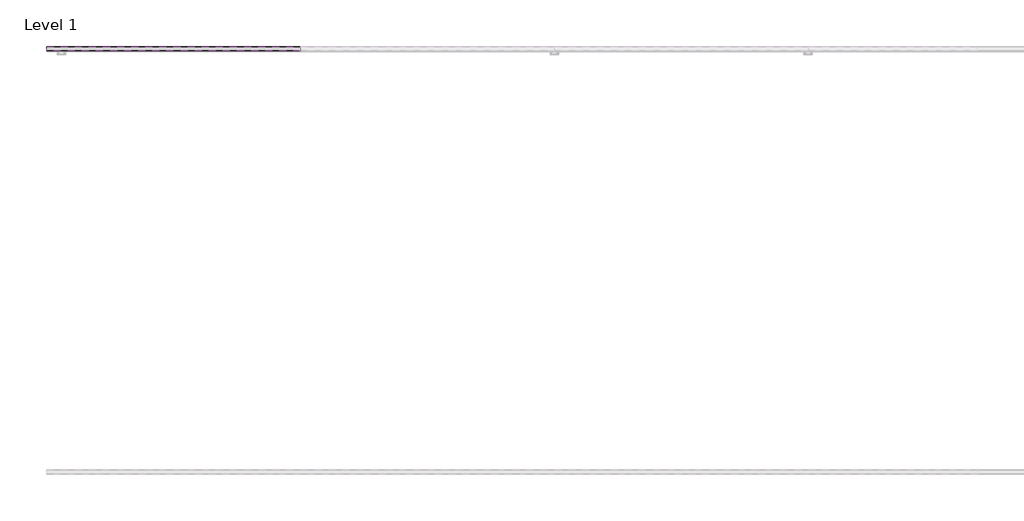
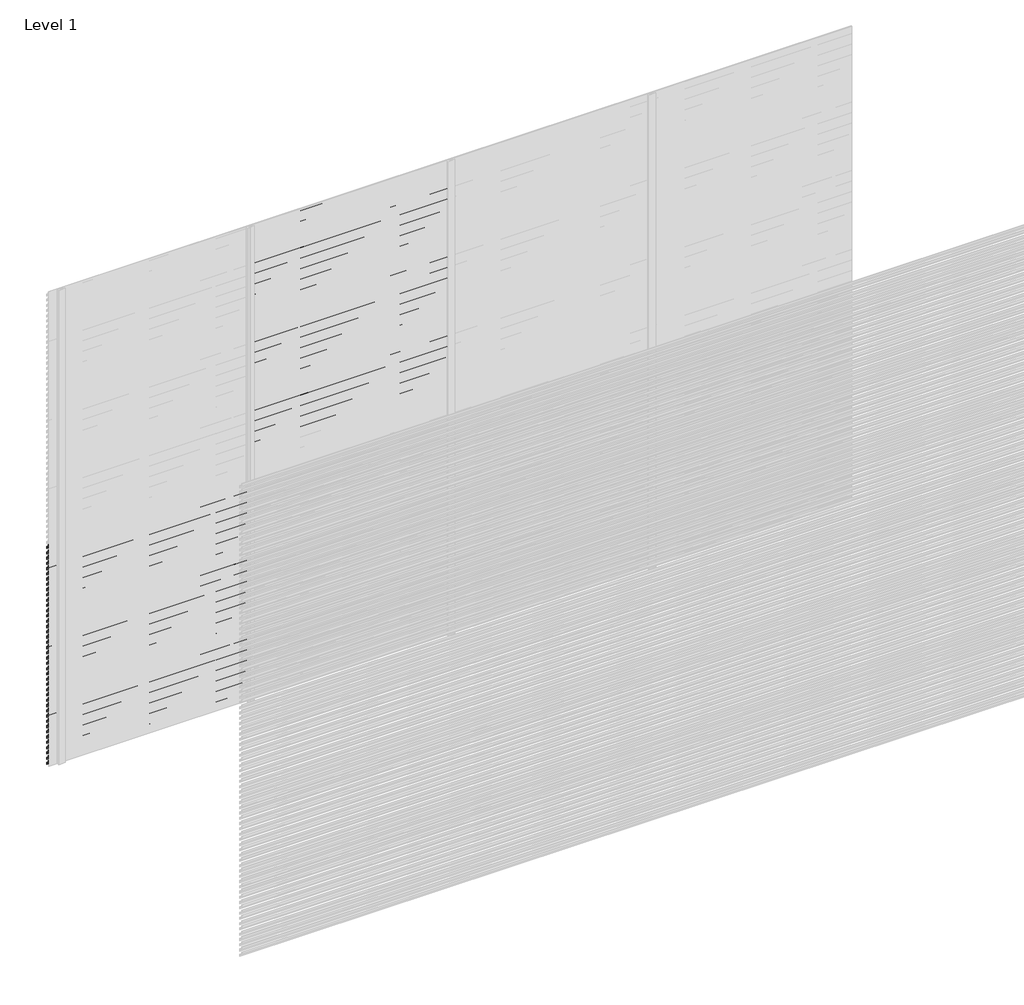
# One storey, part 55 of 507: 84 proxies.
"""IFC4 building model written with IfcOpenShell, lengths in millimetres."""

import ifcopenshell
import ifcopenshell.guid

model = None  # the IFC model being written
_history = None  # IfcOwnerHistory: only IFC2X3 demands one
_inside = {}  # id of a spatial element -> (the spatial element, [elements in it])
_under = {}  # id of a project, library or spatial element -> (it, [spatial elements below it])
_declared = {}  # id of a project -> (the project, [libraries it declares])
_typed = {}  # id of a type object -> (the type object, [elements of that type])
_made_of = {}  # id of a material, layer set ... -> (it, [elements and type objects made of it])


def new_model(schema):
    """Start an empty IFC model of exactly this schema.

    Asked for "IFC4X3", IfcOpenShell would pick the latest addendum, in which some entities
    have other attributes; the version numbers below select the first issue.
    IFC2X3 requires an IfcOwnerHistory on every rooted entity: one is made here for all.
    """
    global model, _history
    if schema == "IFC4X3":
        model = ifcopenshell.file(schema_version=(4, 3, 0, 0))
    else:
        model = ifcopenshell.file(schema=schema)
    _inside.clear()
    _under.clear()
    _declared.clear()
    _typed.clear()
    _made_of.clear()
    _history = None
    if model.schema == "IFC2X3":
        org = make("IfcOrganization", Name="unknown")
        user = make(
            "IfcPersonAndOrganization",
            ThePerson=make("IfcPerson", FamilyName="unknown"),
            TheOrganization=org,
        )
        app = make(
            "IfcApplication",
            ApplicationDeveloper=org,
            Version="unknown",
            ApplicationFullName="unknown",
            ApplicationIdentifier="unknown",
        )
        _history = make(
            "IfcOwnerHistory",
            OwningUser=user,
            OwningApplication=app,
            ChangeAction="ADDED",
            CreationDate=0,
        )
    return model


def make(cls, **values):
    """One entity of the class cls with the attributes given. An attribute that is None is left unset."""
    return model.create_entity(
        cls, **{name: value for name, value in values.items() if value is not None}
    )


def rooted(cls, **values):
    """An entity with a GlobalId (a new one), such as an element, a storey or a relation."""
    return make(cls, GlobalId=ifcopenshell.guid.new(), OwnerHistory=_history, **values)


def si_unit(unit_type, name, prefix=None):
    """IfcSIUnit, for example si_unit("LENGTHUNIT", "METRE", prefix="MILLI")."""
    return make("IfcSIUnit", UnitType=unit_type, Prefix=prefix, Name=name)


def assignment(units):
    """IfcUnitAssignment: the units of a project."""
    return None if units is None else make("IfcUnitAssignment", Units=units)


def point(xyz):
    """IfcCartesianPoint."""
    return None if xyz is None else make("IfcCartesianPoint", Coordinates=xyz)


def direction(xyz):
    """IfcDirection."""
    return None if xyz is None else make("IfcDirection", DirectionRatios=xyz)


def frame(location, z_axis=None, x_axis=None):
    """IfcAxis2Placement3D, a coordinate frame: its origin and axes. An axis left out is left unset."""
    return make(
        "IfcAxis2Placement3D",
        Location=point(location),
        Axis=direction(z_axis),
        RefDirection=direction(x_axis),
    )


def origin():
    """The frame at (0, 0, 0) with its axes left unset."""
    return frame((0.0, 0.0, 0.0))


def place(relative_to, where):
    """IfcLocalPlacement: puts the frame where relative to a parent placement (None: the world)."""
    return make(
        "IfcLocalPlacement", PlacementRelTo=relative_to, RelativePlacement=where
    )


def context(
    kind, dimensions, precision=None, world=None, true_north=None, identifier=None
):
    """IfcGeometricRepresentationContext, for example the 3D "Model" context."""
    return make(
        "IfcGeometricRepresentationContext",
        ContextIdentifier=identifier,
        ContextType=kind,
        CoordinateSpaceDimension=dimensions,
        Precision=precision,
        WorldCoordinateSystem=world,
        TrueNorth=true_north,
    )


def project(units=None, contexts=None):
    """IfcProject with its units and contexts."""
    return rooted(
        "IfcProject",
        Name="project",
        RepresentationContexts=contexts,
        UnitsInContext=assignment(units),
    )


def spatial(cls, under=None, at=None, **own):
    """A site, building, storey or space (cls), placed at a placement, below another one or the project."""
    s = rooted(cls, ObjectPlacement=at, **own)
    if under is not None:
        _under.setdefault(under.id(), (under, []))[1].append(s)
    return s


def polyline(points):
    """IfcPolyline through the points."""
    return make("IfcPolyline", Points=[point(p) for p in points])


def outline(outer, holes=None, kind="AREA"):
    """IfcArbitraryClosedProfileDef: a profile drawn as a closed curve; with holes, ...WithVoids."""
    if holes is None:
        return make("IfcArbitraryClosedProfileDef", ProfileType=kind, OuterCurve=outer)
    return make(
        "IfcArbitraryProfileDefWithVoids",
        ProfileType=kind,
        OuterCurve=outer,
        InnerCurves=holes,
    )


def extrude(swept, where, along, depth):
    """IfcExtrudedAreaSolid: the profile swept, set in the frame where, extruded along a direction by depth."""
    return make(
        "IfcExtrudedAreaSolid",
        SweptArea=swept,
        Position=where,
        ExtrudedDirection=direction(along),
        Depth=depth,
    )


def shape(context_of_items, identifier, shape_type, items):
    """IfcShapeRepresentation: the items that make up one representation, for example the "Body"."""
    return make(
        "IfcShapeRepresentation",
        ContextOfItems=context_of_items,
        RepresentationIdentifier=identifier,
        RepresentationType=shape_type,
        Items=items,
    )


def made_of(thing, what):
    """Note that an element or type object is made of a material, layer set ...; save() writes the relation."""
    if what is not None:
        _made_of.setdefault(what.id(), (what, []))[1].append(thing)
    return thing


def element(
    cls,
    number,
    at=None,
    inside=None,
    cuts=None,
    type_object=None,
    material=None,
    context=None,
    identifier="Body",
    shape_type=None,
    held_by="IfcProductDefinitionShape",
    body=None,
    shapes=None,
    **own,
):
    """One element of the class cls, such as IfcWall. Its Tag is "e" and its number.

    at: its placement. inside: the storey or other place that contains it. cuts: it is an
    opening in that element (IfcRelVoidsElement). A single representation is given by context,
    identifier, shape_type and body (its items); several are given by shapes. held_by: the class
    of the entity that holds the representations. save() writes the other relations.
    """
    e = rooted(cls, Tag="e%d" % number, ObjectPlacement=at, **own)
    if body is not None:
        shapes = [shape(context, identifier, shape_type, body)]
    if shapes is not None:
        e.Representation = make(held_by, Representations=shapes)
    if inside is not None:
        _inside.setdefault(inside.id(), (inside, []))[1].append(e)
    if cuts is not None:
        rooted(
            "IfcRelVoidsElement", RelatingBuildingElement=cuts, RelatedOpeningElement=e
        )
    if type_object is not None:
        _typed.setdefault(type_object.id(), (type_object, []))[1].append(e)
    return made_of(e, material)


def aggregate(whole, parts):
    """IfcRelAggregates: a whole, such as a stair, and the parts it consists of."""
    return rooted("IfcRelAggregates", RelatingObject=whole, RelatedObjects=parts)


def save(model, path):
    """Write the relations noted so far, then the file.

    IfcRelAggregates (storeys below a building ...), IfcRelContainedInSpatialStructure (elements
    in a storey), IfcRelDefinesByType, IfcRelAssociatesMaterial and IfcRelDeclares: one each for
    every whole, place, type object, material and project.
    """
    for whole, parts in _under.values():
        aggregate(whole, parts)
    for where, things in _inside.values():
        rooted(
            "IfcRelContainedInSpatialStructure",
            RelatedElements=things,
            RelatingStructure=where,
        )
    for kind, things in _typed.values():
        rooted("IfcRelDefinesByType", RelatedObjects=things, RelatingType=kind)
    for what, things in _made_of.values():
        rooted("IfcRelAssociatesMaterial", RelatedObjects=things, RelatingMaterial=what)
    for by, libraries in _declared.values():
        rooted("IfcRelDeclares", RelatingContext=by, RelatedDefinitions=libraries)
    model.write(path)


model = new_model("IFC4")

# Units and contexts
model_context = context("Model", 3, world=origin())
ifc_project = project(units=[si_unit("LENGTHUNIT", "METRE", prefix="MILLI")], contexts=[model_context])

# Site, building, storey
site = spatial("IfcSite", under=ifc_project)
building = spatial("IfcBuilding", under=site)
storey = spatial("IfcBuildingStorey", under=building, Name="Level 1", Elevation=0.0)

# Proxies
placement = place(None, origin())
element("IfcBuildingElementProxy", 1, Name="Wall Sweeps", at=placement, inside=storey, context=model_context, shape_type="SweptSolid", body=[
    extrude(outline(polyline([(44003.4540136, 1374.6), (44003.4540136, 1361.1), (44002.2040136, 1361.8216933), (44002.2040136, 1373.8782281), (43983.0540136, 1384.9345698), (43983.0540136, 1398.6), (43984.3040136, 1398.6), (43984.3040136, 1385.6562577), (44003.4540136, 1374.6)])), frame((44966.6208097, 0.0, 0.0), z_axis=(1.0, 0.0, 0.0), x_axis=(0.0, 1.0, 0.0)), (0.0, 0.0, 1.0), 1200.0000002),
])
element("IfcBuildingElementProxy", 2, Name="Wall Sweeps", at=placement, inside=storey, context=model_context, shape_type="SweptSolid", body=[
    extrude(outline(polyline([(44003.4540136, 1341.3), (44003.4540136, 1327.8), (44002.2040136, 1328.5216933), (44002.2040136, 1340.5782281), (43983.0540136, 1351.6345698), (43983.0540136, 1365.3), (43984.3040136, 1365.3), (43984.3040136, 1352.3562577), (44003.4540136, 1341.3)])), frame((44966.6208097, 0.0, 0.0), z_axis=(1.0, 0.0, 0.0), x_axis=(0.0, 1.0, 0.0)), (0.0, 0.0, 1.0), 1200.0000002),
])
element("IfcBuildingElementProxy", 3, Name="Wall Sweeps", at=placement, inside=storey, context=model_context, shape_type="SweptSolid", body=[
    extrude(outline(polyline([(44003.4540136, 1308.0), (44003.4540136, 1294.5), (44002.2040136, 1295.2216933), (44002.2040136, 1307.2782281), (43983.0540136, 1318.3345698), (43983.0540136, 1332.0), (43984.3040136, 1332.0), (43984.3040136, 1319.0562577), (44003.4540136, 1308.0)])), frame((44966.6208097, 0.0, 0.0), z_axis=(1.0, 0.0, 0.0), x_axis=(0.0, 1.0, 0.0)), (0.0, 0.0, 1.0), 1200.0000002),
])
element("IfcBuildingElementProxy", 4, Name="Wall Sweeps", at=placement, inside=storey, context=model_context, shape_type="SweptSolid", body=[
    extrude(outline(polyline([(44003.4540136, 1274.7), (44003.4540136, 1261.2), (44002.2040136, 1261.9216933), (44002.2040136, 1273.9782281), (43983.0540136, 1285.0345698), (43983.0540136, 1298.7), (43984.3040136, 1298.7), (43984.3040136, 1285.7562577), (44003.4540136, 1274.7)])), frame((44966.6208097, 0.0, 0.0), z_axis=(1.0, 0.0, 0.0), x_axis=(0.0, 1.0, 0.0)), (0.0, 0.0, 1.0), 1200.0000002),
])
element("IfcBuildingElementProxy", 5, Name="Wall Sweeps", at=placement, inside=storey, context=model_context, shape_type="SweptSolid", body=[
    extrude(outline(polyline([(44003.4540136, 1241.4), (44003.4540136, 1227.9), (44002.2040136, 1228.6216933), (44002.2040136, 1240.6782281), (43983.0540136, 1251.7345698), (43983.0540136, 1265.4), (43984.3040136, 1265.4), (43984.3040136, 1252.4562577), (44003.4540136, 1241.4)])), frame((44966.6208097, 0.0, 0.0), z_axis=(1.0, 0.0, 0.0), x_axis=(0.0, 1.0, 0.0)), (0.0, 0.0, 1.0), 1200.0000002),
])
element("IfcBuildingElementProxy", 6, Name="Wall Sweeps", at=placement, inside=storey, context=model_context, shape_type="SweptSolid", body=[
    extrude(outline(polyline([(44003.4540136, 1208.1), (44003.4540136, 1194.6), (44002.2040136, 1195.3216933), (44002.2040136, 1207.3782281), (43983.0540136, 1218.4345698), (43983.0540136, 1232.1), (43984.3040136, 1232.1), (43984.3040136, 1219.1562577), (44003.4540136, 1208.1)])), frame((44966.6208097, 0.0, 0.0), z_axis=(1.0, 0.0, 0.0), x_axis=(0.0, 1.0, 0.0)), (0.0, 0.0, 1.0), 1200.0000002),
])
element("IfcBuildingElementProxy", 7, Name="Wall Sweeps", at=placement, inside=storey, context=model_context, shape_type="SweptSolid", body=[
    extrude(outline(polyline([(44003.4540136, 1174.8), (44003.4540136, 1161.3), (44002.2040136, 1162.0216933), (44002.2040136, 1174.0782281), (43983.0540136, 1185.1345698), (43983.0540136, 1198.8), (43984.3040136, 1198.8), (43984.3040136, 1185.8562577), (44003.4540136, 1174.8)])), frame((44966.6208097, 0.0, 0.0), z_axis=(1.0, 0.0, 0.0), x_axis=(0.0, 1.0, 0.0)), (0.0, 0.0, 1.0), 1200.0000002),
])
element("IfcBuildingElementProxy", 8, Name="Wall Sweeps", at=placement, inside=storey, context=model_context, shape_type="SweptSolid", body=[
    extrude(outline(polyline([(44003.4540136, 1141.5), (44003.4540136, 1128.0), (44002.2040136, 1128.7216933), (44002.2040136, 1140.7782281), (43983.0540136, 1151.8345698), (43983.0540136, 1165.5), (43984.3040136, 1165.5), (43984.3040136, 1152.5562577), (44003.4540136, 1141.5)])), frame((44966.6208097, 0.0, 0.0), z_axis=(1.0, 0.0, 0.0), x_axis=(0.0, 1.0, 0.0)), (0.0, 0.0, 1.0), 1200.0000002),
])
element("IfcBuildingElementProxy", 9, Name="Wall Sweeps", at=placement, inside=storey, context=model_context, shape_type="SweptSolid", body=[
    extrude(outline(polyline([(44003.4540136, 1108.2), (44003.4540136, 1094.7), (44002.2040136, 1095.4216933), (44002.2040136, 1107.4782281), (43983.0540136, 1118.5345698), (43983.0540136, 1132.2), (43984.3040136, 1132.2), (43984.3040136, 1119.2562577), (44003.4540136, 1108.2)])), frame((44966.6208097, 0.0, 0.0), z_axis=(1.0, 0.0, 0.0), x_axis=(0.0, 1.0, 0.0)), (0.0, 0.0, 1.0), 1200.0000002),
])
element("IfcBuildingElementProxy", 10, Name="Wall Sweeps", at=placement, inside=storey, context=model_context, shape_type="SweptSolid", body=[
    extrude(outline(polyline([(44003.4540136, 1074.9), (44003.4540136, 1061.4), (44002.2040136, 1062.1216933), (44002.2040136, 1074.1782281), (43983.0540136, 1085.2345698), (43983.0540136, 1098.9), (43984.3040136, 1098.9), (43984.3040136, 1085.9562577), (44003.4540136, 1074.9)])), frame((44966.6208097, 0.0, 0.0), z_axis=(1.0, 0.0, 0.0), x_axis=(0.0, 1.0, 0.0)), (0.0, 0.0, 1.0), 1200.0000002),
])
element("IfcBuildingElementProxy", 11, Name="Wall Sweeps", at=placement, inside=storey, context=model_context, shape_type="SweptSolid", body=[
    extrude(outline(polyline([(44003.4540136, 1041.6), (44003.4540136, 1028.1), (44002.2040136, 1028.8216933), (44002.2040136, 1040.8782281), (43983.0540136, 1051.9345698), (43983.0540136, 1065.6), (43984.3040136, 1065.6), (43984.3040136, 1052.6562577), (44003.4540136, 1041.6)])), frame((44966.6208097, 0.0, 0.0), z_axis=(1.0, 0.0, 0.0), x_axis=(0.0, 1.0, 0.0)), (0.0, 0.0, 1.0), 1200.0000002),
])
element("IfcBuildingElementProxy", 12, Name="Wall Sweeps", at=placement, inside=storey, context=model_context, shape_type="SweptSolid", body=[
    extrude(outline(polyline([(44003.4540136, 1008.3), (44003.4540136, 994.8), (44002.2040136, 995.5216933), (44002.2040136, 1007.5782281), (43983.0540136, 1018.6345698), (43983.0540136, 1032.3), (43984.3040136, 1032.3), (43984.3040136, 1019.3562577), (44003.4540136, 1008.3)])), frame((44966.6208097, 0.0, 0.0), z_axis=(1.0, 0.0, 0.0), x_axis=(0.0, 1.0, 0.0)), (0.0, 0.0, 1.0), 1200.0000002),
])
element("IfcBuildingElementProxy", 13, Name="Wall Sweeps", at=placement, inside=storey, context=model_context, shape_type="SweptSolid", body=[
    extrude(outline(polyline([(44003.4540136, 975.0), (44003.4540136, 961.5), (44002.2040136, 962.2216933), (44002.2040136, 974.2782281), (43983.0540136, 985.3345698), (43983.0540136, 999.0), (43984.3040136, 999.0), (43984.3040136, 986.0562577), (44003.4540136, 975.0)])), frame((44966.6208097, 0.0, 0.0), z_axis=(1.0, 0.0, 0.0), x_axis=(0.0, 1.0, 0.0)), (0.0, 0.0, 1.0), 1200.0000002),
])
element("IfcBuildingElementProxy", 14, Name="Wall Sweeps", at=placement, inside=storey, context=model_context, shape_type="SweptSolid", body=[
    extrude(outline(polyline([(44003.4540136, 941.7), (44003.4540136, 928.2), (44002.2040136, 928.9216933), (44002.2040136, 940.9782281), (43983.0540136, 952.0345698), (43983.0540136, 965.7), (43984.3040136, 965.7), (43984.3040136, 952.7562577), (44003.4540136, 941.7)])), frame((44966.6208097, 0.0, 0.0), z_axis=(1.0, 0.0, 0.0), x_axis=(0.0, 1.0, 0.0)), (0.0, 0.0, 1.0), 1200.0000002),
])
element("IfcBuildingElementProxy", 15, Name="Wall Sweeps", at=placement, inside=storey, context=model_context, shape_type="SweptSolid", body=[
    extrude(outline(polyline([(44003.4540136, 908.4), (44003.4540136, 894.9), (44002.2040136, 895.6216933), (44002.2040136, 907.6782281), (43983.0540136, 918.7345698), (43983.0540136, 932.4), (43984.3040136, 932.4), (43984.3040136, 919.4562577), (44003.4540136, 908.4)])), frame((44966.6208097, 0.0, 0.0), z_axis=(1.0, 0.0, 0.0), x_axis=(0.0, 1.0, 0.0)), (0.0, 0.0, 1.0), 1200.0000002),
])
element("IfcBuildingElementProxy", 16, Name="Wall Sweeps", at=placement, inside=storey, context=model_context, shape_type="SweptSolid", body=[
    extrude(outline(polyline([(44003.4540136, 875.1), (44003.4540136, 861.6), (44002.2040136, 862.3216933), (44002.2040136, 874.3782281), (43983.0540136, 885.4345698), (43983.0540136, 899.1), (43984.3040136, 899.1), (43984.3040136, 886.1562577), (44003.4540136, 875.1)])), frame((44966.6208097, 0.0, 0.0), z_axis=(1.0, 0.0, 0.0), x_axis=(0.0, 1.0, 0.0)), (0.0, 0.0, 1.0), 1200.0000002),
])
element("IfcBuildingElementProxy", 17, Name="Wall Sweeps", at=placement, inside=storey, context=model_context, shape_type="SweptSolid", body=[
    extrude(outline(polyline([(44003.4540136, 841.8), (44003.4540136, 828.3), (44002.2040136, 829.0216933), (44002.2040136, 841.0782281), (43983.0540136, 852.1345698), (43983.0540136, 865.8), (43984.3040136, 865.8), (43984.3040136, 852.8562577), (44003.4540136, 841.8)])), frame((44966.6208097, 0.0, 0.0), z_axis=(1.0, 0.0, 0.0), x_axis=(0.0, 1.0, 0.0)), (0.0, 0.0, 1.0), 1200.0000002),
])
element("IfcBuildingElementProxy", 18, Name="Wall Sweeps", at=placement, inside=storey, context=model_context, shape_type="SweptSolid", body=[
    extrude(outline(polyline([(44003.4540136, 808.5), (44003.4540136, 795.0), (44002.2040136, 795.7216933), (44002.2040136, 807.7782281), (43983.0540136, 818.8345698), (43983.0540136, 832.5), (43984.3040136, 832.5), (43984.3040136, 819.5562577), (44003.4540136, 808.5)])), frame((44966.6208097, 0.0, 0.0), z_axis=(1.0, 0.0, 0.0), x_axis=(0.0, 1.0, 0.0)), (0.0, 0.0, 1.0), 1200.0000002),
])
element("IfcBuildingElementProxy", 19, Name="Wall Sweeps", at=placement, inside=storey, context=model_context, shape_type="SweptSolid", body=[
    extrude(outline(polyline([(44003.4540136, 775.2), (44003.4540136, 761.7), (44002.2040136, 762.4216933), (44002.2040136, 774.4782281), (43983.0540136, 785.5345698), (43983.0540136, 799.2), (43984.3040136, 799.2), (43984.3040136, 786.2562577), (44003.4540136, 775.2)])), frame((44966.6208097, 0.0, 0.0), z_axis=(1.0, 0.0, 0.0), x_axis=(0.0, 1.0, 0.0)), (0.0, 0.0, 1.0), 1200.0000002),
])
element("IfcBuildingElementProxy", 20, Name="Wall Sweeps", at=placement, inside=storey, context=model_context, shape_type="SweptSolid", body=[
    extrude(outline(polyline([(44003.4540136, 741.9), (44003.4540136, 728.4), (44002.2040136, 729.1216933), (44002.2040136, 741.1782281), (43983.0540136, 752.2345698), (43983.0540136, 765.9), (43984.3040136, 765.9), (43984.3040136, 752.9562577), (44003.4540136, 741.9)])), frame((44966.6208097, 0.0, 0.0), z_axis=(1.0, 0.0, 0.0), x_axis=(0.0, 1.0, 0.0)), (0.0, 0.0, 1.0), 1200.0000002),
])
element("IfcBuildingElementProxy", 21, Name="Wall Sweeps", at=placement, inside=storey, context=model_context, shape_type="SweptSolid", body=[
    extrude(outline(polyline([(44003.4540136, 708.6), (44003.4540136, 695.1), (44002.2040136, 695.8216933), (44002.2040136, 707.8782281), (43983.0540136, 718.9345698), (43983.0540136, 732.6), (43984.3040136, 732.6), (43984.3040136, 719.6562577), (44003.4540136, 708.6)])), frame((44966.6208097, 0.0, 0.0), z_axis=(1.0, 0.0, 0.0), x_axis=(0.0, 1.0, 0.0)), (0.0, 0.0, 1.0), 1200.0000002),
])
element("IfcBuildingElementProxy", 22, Name="Wall Sweeps", at=placement, inside=storey, context=model_context, shape_type="SweptSolid", body=[
    extrude(outline(polyline([(44003.4540136, 675.3), (44003.4540136, 661.8), (44002.2040136, 662.5216933), (44002.2040136, 674.5782281), (43983.0540136, 685.6345698), (43983.0540136, 699.3), (43984.3040136, 699.3), (43984.3040136, 686.3562577), (44003.4540136, 675.3)])), frame((44966.6208097, 0.0, 0.0), z_axis=(1.0, 0.0, 0.0), x_axis=(0.0, 1.0, 0.0)), (0.0, 0.0, 1.0), 1200.0000002),
])
element("IfcBuildingElementProxy", 23, Name="Wall Sweeps", at=placement, inside=storey, context=model_context, shape_type="SweptSolid", body=[
    extrude(outline(polyline([(44003.4540136, 642.0), (44003.4540136, 628.5), (44002.2040136, 629.2216933), (44002.2040136, 641.2782281), (43983.0540136, 652.3345698), (43983.0540136, 666.0), (43984.3040136, 666.0), (43984.3040136, 653.0562577), (44003.4540136, 642.0)])), frame((44966.6208097, 0.0, 0.0), z_axis=(1.0, 0.0, 0.0), x_axis=(0.0, 1.0, 0.0)), (0.0, 0.0, 1.0), 1200.0000002),
])
element("IfcBuildingElementProxy", 24, Name="Wall Sweeps", at=placement, inside=storey, context=model_context, shape_type="SweptSolid", body=[
    extrude(outline(polyline([(44003.4540136, 608.7), (44003.4540136, 595.2), (44002.2040136, 595.9216933), (44002.2040136, 607.9782281), (43983.0540136, 619.0345698), (43983.0540136, 632.7), (43984.3040136, 632.7), (43984.3040136, 619.7562577), (44003.4540136, 608.7)])), frame((44966.6208097, 0.0, 0.0), z_axis=(1.0, 0.0, 0.0), x_axis=(0.0, 1.0, 0.0)), (0.0, 0.0, 1.0), 1200.0000002),
])
element("IfcBuildingElementProxy", 25, Name="Wall Sweeps", at=placement, inside=storey, context=model_context, shape_type="SweptSolid", body=[
    extrude(outline(polyline([(44003.4540136, 575.4), (44003.4540136, 561.9), (44002.2040136, 562.6216933), (44002.2040136, 574.6782281), (43983.0540136, 585.7345698), (43983.0540136, 599.4), (43984.3040136, 599.4), (43984.3040136, 586.4562577), (44003.4540136, 575.4)])), frame((44966.6208097, 0.0, 0.0), z_axis=(1.0, 0.0, 0.0), x_axis=(0.0, 1.0, 0.0)), (0.0, 0.0, 1.0), 1200.0000002),
])
element("IfcBuildingElementProxy", 26, Name="Wall Sweeps", at=placement, inside=storey, context=model_context, shape_type="SweptSolid", body=[
    extrude(outline(polyline([(44003.4540136, 542.1), (44003.4540136, 528.6), (44002.2040136, 529.3216933), (44002.2040136, 541.3782281), (43983.0540136, 552.4345698), (43983.0540136, 566.1), (43984.3040136, 566.1), (43984.3040136, 553.1562577), (44003.4540136, 542.1)])), frame((44966.6208097, 0.0, 0.0), z_axis=(1.0, 0.0, 0.0), x_axis=(0.0, 1.0, 0.0)), (0.0, 0.0, 1.0), 1200.0000002),
])
element("IfcBuildingElementProxy", 27, Name="Wall Sweeps", at=placement, inside=storey, context=model_context, shape_type="SweptSolid", body=[
    extrude(outline(polyline([(44003.4540136, 508.8), (44003.4540136, 495.3), (44002.2040136, 496.0216933), (44002.2040136, 508.0782281), (43983.0540136, 519.1345698), (43983.0540136, 532.8), (43984.3040136, 532.8), (43984.3040136, 519.8562577), (44003.4540136, 508.8)])), frame((44966.6208097, 0.0, 0.0), z_axis=(1.0, 0.0, 0.0), x_axis=(0.0, 1.0, 0.0)), (0.0, 0.0, 1.0), 1200.0000002),
])
element("IfcBuildingElementProxy", 28, Name="Wall Sweeps", at=placement, inside=storey, context=model_context, shape_type="SweptSolid", body=[
    extrude(outline(polyline([(44003.4540136, 475.5), (44003.4540136, 462.0), (44002.2040136, 462.7216933), (44002.2040136, 474.7782281), (43983.0540136, 485.8345698), (43983.0540136, 499.5), (43984.3040136, 499.5), (43984.3040136, 486.5562577), (44003.4540136, 475.5)])), frame((44966.6208097, 0.0, 0.0), z_axis=(1.0, 0.0, 0.0), x_axis=(0.0, 1.0, 0.0)), (0.0, 0.0, 1.0), 1200.0000002),
])
element("IfcBuildingElementProxy", 29, Name="Wall Sweeps", at=placement, inside=storey, context=model_context, shape_type="SweptSolid", body=[
    extrude(outline(polyline([(44003.4540136, 442.2), (44003.4540136, 428.7), (44002.2040136, 429.4216933), (44002.2040136, 441.4782281), (43983.0540136, 452.5345698), (43983.0540136, 466.2), (43984.3040136, 466.2), (43984.3040136, 453.2562577), (44003.4540136, 442.2)])), frame((44966.6208097, 0.0, 0.0), z_axis=(1.0, 0.0, 0.0), x_axis=(0.0, 1.0, 0.0)), (0.0, 0.0, 1.0), 1200.0000002),
])
element("IfcBuildingElementProxy", 30, Name="Wall Sweeps", at=placement, inside=storey, context=model_context, shape_type="SweptSolid", body=[
    extrude(outline(polyline([(44003.4540136, 408.9), (44003.4540136, 395.4), (44002.2040136, 396.1216933), (44002.2040136, 408.1782281), (43983.0540136, 419.2345698), (43983.0540136, 432.9), (43984.3040136, 432.9), (43984.3040136, 419.9562577), (44003.4540136, 408.9)])), frame((44966.6208097, 0.0, 0.0), z_axis=(1.0, 0.0, 0.0), x_axis=(0.0, 1.0, 0.0)), (0.0, 0.0, 1.0), 1200.0000002),
])
element("IfcBuildingElementProxy", 31, Name="Wall Sweeps", at=placement, inside=storey, context=model_context, shape_type="SweptSolid", body=[
    extrude(outline(polyline([(44003.4540136, 375.6), (44003.4540136, 362.1), (44002.2040136, 362.8216933), (44002.2040136, 374.8782281), (43983.0540136, 385.9345698), (43983.0540136, 399.6), (43984.3040136, 399.6), (43984.3040136, 386.6562577), (44003.4540136, 375.6)])), frame((44966.6208097, 0.0, 0.0), z_axis=(1.0, 0.0, 0.0), x_axis=(0.0, 1.0, 0.0)), (0.0, 0.0, 1.0), 1200.0000002),
])
element("IfcBuildingElementProxy", 32, Name="Wall Sweeps", at=placement, inside=storey, context=model_context, shape_type="SweptSolid", body=[
    extrude(outline(polyline([(44003.4540136, 342.3), (44003.4540136, 328.8), (44002.2040136, 329.5216933), (44002.2040136, 341.5782281), (43983.0540136, 352.6345698), (43983.0540136, 366.3), (43984.3040136, 366.3), (43984.3040136, 353.3562577), (44003.4540136, 342.3)])), frame((44966.6208097, 0.0, 0.0), z_axis=(1.0, 0.0, 0.0), x_axis=(0.0, 1.0, 0.0)), (0.0, 0.0, 1.0), 1200.0000002),
])
element("IfcBuildingElementProxy", 33, Name="Wall Sweeps", at=placement, inside=storey, context=model_context, shape_type="SweptSolid", body=[
    extrude(outline(polyline([(44003.4540136, 309.0), (44003.4540136, 295.5), (44002.2040136, 296.2216933), (44002.2040136, 308.2782281), (43983.0540136, 319.3345698), (43983.0540136, 333.0), (43984.3040136, 333.0), (43984.3040136, 320.0562577), (44003.4540136, 309.0)])), frame((44966.6208097, 0.0, 0.0), z_axis=(1.0, 0.0, 0.0), x_axis=(0.0, 1.0, 0.0)), (0.0, 0.0, 1.0), 1200.0000002),
])
element("IfcBuildingElementProxy", 34, Name="Wall Sweeps", at=placement, inside=storey, context=model_context, shape_type="SweptSolid", body=[
    extrude(outline(polyline([(44003.4540136, 275.7), (44003.4540136, 262.2), (44002.2040136, 262.9216933), (44002.2040136, 274.9782281), (43983.0540136, 286.0345698), (43983.0540136, 299.7), (43984.3040136, 299.7), (43984.3040136, 286.7562577), (44003.4540136, 275.7)])), frame((44966.6208097, 0.0, 0.0), z_axis=(1.0, 0.0, 0.0), x_axis=(0.0, 1.0, 0.0)), (0.0, 0.0, 1.0), 1200.0000002),
])
element("IfcBuildingElementProxy", 35, Name="Wall Sweeps", at=placement, inside=storey, context=model_context, shape_type="SweptSolid", body=[
    extrude(outline(polyline([(44003.4540136, 242.4), (44003.4540136, 228.9), (44002.2040136, 229.6216933), (44002.2040136, 241.6782281), (43983.0540136, 252.7345698), (43983.0540136, 266.4), (43984.3040136, 266.4), (43984.3040136, 253.4562577), (44003.4540136, 242.4)])), frame((44966.6208097, 0.0, 0.0), z_axis=(1.0, 0.0, 0.0), x_axis=(0.0, 1.0, 0.0)), (0.0, 0.0, 1.0), 1200.0000002),
])
element("IfcBuildingElementProxy", 36, Name="Wall Sweeps", at=placement, inside=storey, context=model_context, shape_type="SweptSolid", body=[
    extrude(outline(polyline([(44003.4540136, 209.1), (44003.4540136, 195.6), (44002.2040136, 196.3216933), (44002.2040136, 208.3782281), (43983.0540136, 219.4345698), (43983.0540136, 233.1), (43984.3040136, 233.1), (43984.3040136, 220.1562577), (44003.4540136, 209.1)])), frame((44966.6208097, 0.0, 0.0), z_axis=(1.0, 0.0, 0.0), x_axis=(0.0, 1.0, 0.0)), (0.0, 0.0, 1.0), 1200.0000002),
])
element("IfcBuildingElementProxy", 37, Name="Wall Sweeps", at=placement, inside=storey, context=model_context, shape_type="SweptSolid", body=[
    extrude(outline(polyline([(44003.4540136, 175.8), (44003.4540136, 162.3), (44002.2040136, 163.0216933), (44002.2040136, 175.0782281), (43983.0540136, 186.1345698), (43983.0540136, 199.8), (43984.3040136, 199.8), (43984.3040136, 186.8562577), (44003.4540136, 175.8)])), frame((44966.6208097, 0.0, 0.0), z_axis=(1.0, 0.0, 0.0), x_axis=(0.0, 1.0, 0.0)), (0.0, 0.0, 1.0), 1200.0000002),
])
element("IfcBuildingElementProxy", 38, Name="Wall Sweeps", at=placement, inside=storey, context=model_context, shape_type="SweptSolid", body=[
    extrude(outline(polyline([(44003.4540136, 142.5), (44003.4540136, 129.0), (44002.2040136, 129.7216933), (44002.2040136, 141.7782281), (43983.0540136, 152.8345698), (43983.0540136, 166.5), (43984.3040136, 166.5), (43984.3040136, 153.5562577), (44003.4540136, 142.5)])), frame((44966.6208097, 0.0, 0.0), z_axis=(1.0, 0.0, 0.0), x_axis=(0.0, 1.0, 0.0)), (0.0, 0.0, 1.0), 1200.0000002),
])
element("IfcBuildingElementProxy", 39, Name="Wall Sweeps", at=placement, inside=storey, context=model_context, shape_type="SweptSolid", body=[
    extrude(outline(polyline([(44003.4540136, 109.2), (44003.4540136, 95.7), (44002.2040136, 96.4216933), (44002.2040136, 108.4782281), (43983.0540136, 119.5345698), (43983.0540136, 133.2), (43984.3040136, 133.2), (43984.3040136, 120.2562577), (44003.4540136, 109.2)])), frame((44966.6208097, 0.0, 0.0), z_axis=(1.0, 0.0, 0.0), x_axis=(0.0, 1.0, 0.0)), (0.0, 0.0, 1.0), 1200.0000002),
])
element("IfcBuildingElementProxy", 40, Name="Wall Sweeps", at=placement, inside=storey, context=model_context, shape_type="SweptSolid", body=[
    extrude(outline(polyline([(44003.4540136, 75.9), (44003.4540136, 62.4), (44002.2040136, 63.1216933), (44002.2040136, 75.1782281), (43983.0540136, 86.2345698), (43983.0540136, 99.9), (43984.3040136, 99.9), (43984.3040136, 86.9562577), (44003.4540136, 75.9)])), frame((44966.6208097, 0.0, 0.0), z_axis=(1.0, 0.0, 0.0), x_axis=(0.0, 1.0, 0.0)), (0.0, 0.0, 1.0), 1200.0000002),
])
element("IfcBuildingElementProxy", 41, Name="Wall Sweeps", at=placement, inside=storey, context=model_context, shape_type="SweptSolid", body=[
    extrude(outline(polyline([(44003.4540136, 42.6), (44003.4540136, 29.1), (44002.2040136, 29.8216933), (44002.2040136, 41.8782281), (43983.0540136, 52.9345698), (43983.0540136, 66.6), (43984.3040136, 66.6), (43984.3040136, 53.6562577), (44003.4540136, 42.6)])), frame((44966.6208097, 0.0, 0.0), z_axis=(1.0, 0.0, 0.0), x_axis=(0.0, 1.0, 0.0)), (0.0, 0.0, 1.0), 1200.0000002),
])
element("IfcBuildingElementProxy", 42, Name="Wall Sweeps", at=placement, inside=storey, context=model_context, shape_type="SweptSolid", body=[
    extrude(outline(polyline([(44003.4540136, 9.3), (44003.4540136, -4.2), (44002.2040136, -3.4783067), (44002.2040136, 8.5782281), (43983.0540136, 19.6345698), (43983.0540136, 33.3), (43984.3040136, 33.3), (43984.3040136, 20.3562577), (44003.4540136, 9.3)])), frame((44966.6208097, 0.0, 0.0), z_axis=(1.0, 0.0, 0.0), x_axis=(0.0, 1.0, 0.0)), (0.0, 0.0, 1.0), 1200.0000002),
])
element("IfcBuildingElementProxy", 43, Name="Wall Sweeps", at=placement, inside=storey, context=model_context, shape_type="SweptSolid", body=[
    extrude(outline(polyline([(44003.4540136, 2973.0), (44003.4540136, 2959.5), (44002.2040136, 2960.2216933), (44002.2040136, 2972.2782281), (43983.0540136, 2983.3345698), (43983.0540136, 2997.0), (43984.3040136, 2997.0), (43984.3040136, 2984.0562577), (44003.4540136, 2973.0)])), frame((46166.6208099, 0.0, 0.0), z_axis=(1.0, 0.0, 0.0), x_axis=(0.0, 1.0, 0.0)), (0.0, 0.0, 1.0), 1199.9999999),
])
element("IfcBuildingElementProxy", 44, Name="Wall Sweeps", at=placement, inside=storey, context=model_context, shape_type="SweptSolid", body=[
    extrude(outline(polyline([(44003.4540136, 2939.7), (44003.4540136, 2926.2), (44002.2040136, 2926.9216933), (44002.2040136, 2938.9782281), (43983.0540136, 2950.0345698), (43983.0540136, 2963.7), (43984.3040136, 2963.7), (43984.3040136, 2950.7562577), (44003.4540136, 2939.7)])), frame((46166.6208099, 0.0, 0.0), z_axis=(1.0, 0.0, 0.0), x_axis=(0.0, 1.0, 0.0)), (0.0, 0.0, 1.0), 1199.9999999),
])
element("IfcBuildingElementProxy", 45, Name="Wall Sweeps", at=placement, inside=storey, context=model_context, shape_type="SweptSolid", body=[
    extrude(outline(polyline([(44003.4540136, 2906.4), (44003.4540136, 2892.9), (44002.2040136, 2893.6216933), (44002.2040136, 2905.6782281), (43983.0540136, 2916.7345698), (43983.0540136, 2930.4), (43984.3040136, 2930.4), (43984.3040136, 2917.4562577), (44003.4540136, 2906.4)])), frame((46166.6208099, 0.0, 0.0), z_axis=(1.0, 0.0, 0.0), x_axis=(0.0, 1.0, 0.0)), (0.0, 0.0, 1.0), 1199.9999999),
])
element("IfcBuildingElementProxy", 46, Name="Wall Sweeps", at=placement, inside=storey, context=model_context, shape_type="SweptSolid", body=[
    extrude(outline(polyline([(44003.4540136, 2873.1), (44003.4540136, 2859.6), (44002.2040136, 2860.3216933), (44002.2040136, 2872.3782281), (43983.0540136, 2883.4345698), (43983.0540136, 2897.1), (43984.3040136, 2897.1), (43984.3040136, 2884.1562577), (44003.4540136, 2873.1)])), frame((46166.6208099, 0.0, 0.0), z_axis=(1.0, 0.0, 0.0), x_axis=(0.0, 1.0, 0.0)), (0.0, 0.0, 1.0), 1199.9999999),
])
element("IfcBuildingElementProxy", 47, Name="Wall Sweeps", at=placement, inside=storey, context=model_context, shape_type="SweptSolid", body=[
    extrude(outline(polyline([(44003.4540136, 2839.8), (44003.4540136, 2826.3), (44002.2040136, 2827.0216933), (44002.2040136, 2839.0782281), (43983.0540136, 2850.1345698), (43983.0540136, 2863.8), (43984.3040136, 2863.8), (43984.3040136, 2850.8562577), (44003.4540136, 2839.8)])), frame((46166.6208099, 0.0, 0.0), z_axis=(1.0, 0.0, 0.0), x_axis=(0.0, 1.0, 0.0)), (0.0, 0.0, 1.0), 1199.9999999),
])
element("IfcBuildingElementProxy", 48, Name="Wall Sweeps", at=placement, inside=storey, context=model_context, shape_type="SweptSolid", body=[
    extrude(outline(polyline([(44003.4540136, 2806.5), (44003.4540136, 2793.0), (44002.2040136, 2793.7216933), (44002.2040136, 2805.7782281), (43983.0540136, 2816.8345698), (43983.0540136, 2830.5), (43984.3040136, 2830.5), (43984.3040136, 2817.5562577), (44003.4540136, 2806.5)])), frame((46166.6208099, 0.0, 0.0), z_axis=(1.0, 0.0, 0.0), x_axis=(0.0, 1.0, 0.0)), (0.0, 0.0, 1.0), 1199.9999999),
])
element("IfcBuildingElementProxy", 49, Name="Wall Sweeps", at=placement, inside=storey, context=model_context, shape_type="SweptSolid", body=[
    extrude(outline(polyline([(44003.4540136, 2773.2), (44003.4540136, 2759.7), (44002.2040136, 2760.4216933), (44002.2040136, 2772.4782281), (43983.0540136, 2783.5345698), (43983.0540136, 2797.2), (43984.3040136, 2797.2), (43984.3040136, 2784.2562577), (44003.4540136, 2773.2)])), frame((46166.6208099, 0.0, 0.0), z_axis=(1.0, 0.0, 0.0), x_axis=(0.0, 1.0, 0.0)), (0.0, 0.0, 1.0), 1199.9999999),
])
element("IfcBuildingElementProxy", 50, Name="Wall Sweeps", at=placement, inside=storey, context=model_context, shape_type="SweptSolid", body=[
    extrude(outline(polyline([(44003.4540136, 2739.9), (44003.4540136, 2726.4), (44002.2040136, 2727.1216933), (44002.2040136, 2739.1782281), (43983.0540136, 2750.2345698), (43983.0540136, 2763.9), (43984.3040136, 2763.9), (43984.3040136, 2750.9562577), (44003.4540136, 2739.9)])), frame((46166.6208099, 0.0, 0.0), z_axis=(1.0, 0.0, 0.0), x_axis=(0.0, 1.0, 0.0)), (0.0, 0.0, 1.0), 1199.9999999),
])
element("IfcBuildingElementProxy", 51, Name="Wall Sweeps", at=placement, inside=storey, context=model_context, shape_type="SweptSolid", body=[
    extrude(outline(polyline([(44003.4540136, 2706.6), (44003.4540136, 2693.1), (44002.2040136, 2693.8216933), (44002.2040136, 2705.8782281), (43983.0540136, 2716.9345698), (43983.0540136, 2730.6), (43984.3040136, 2730.6), (43984.3040136, 2717.6562577), (44003.4540136, 2706.6)])), frame((46166.6208099, 0.0, 0.0), z_axis=(1.0, 0.0, 0.0), x_axis=(0.0, 1.0, 0.0)), (0.0, 0.0, 1.0), 1199.9999999),
])
element("IfcBuildingElementProxy", 52, Name="Wall Sweeps", at=placement, inside=storey, context=model_context, shape_type="SweptSolid", body=[
    extrude(outline(polyline([(44003.4540136, 2673.3), (44003.4540136, 2659.8), (44002.2040136, 2660.5216933), (44002.2040136, 2672.5782281), (43983.0540136, 2683.6345698), (43983.0540136, 2697.3), (43984.3040136, 2697.3), (43984.3040136, 2684.3562577), (44003.4540136, 2673.3)])), frame((46166.6208099, 0.0, 0.0), z_axis=(1.0, 0.0, 0.0), x_axis=(0.0, 1.0, 0.0)), (0.0, 0.0, 1.0), 1199.9999999),
])
element("IfcBuildingElementProxy", 53, Name="Wall Sweeps", at=placement, inside=storey, context=model_context, shape_type="SweptSolid", body=[
    extrude(outline(polyline([(44003.4540136, 2640.0), (44003.4540136, 2626.5), (44002.2040136, 2627.2216933), (44002.2040136, 2639.2782281), (43983.0540136, 2650.3345698), (43983.0540136, 2664.0), (43984.3040136, 2664.0), (43984.3040136, 2651.0562577), (44003.4540136, 2640.0)])), frame((46166.6208099, 0.0, 0.0), z_axis=(1.0, 0.0, 0.0), x_axis=(0.0, 1.0, 0.0)), (0.0, 0.0, 1.0), 1199.9999999),
])
element("IfcBuildingElementProxy", 54, Name="Wall Sweeps", at=placement, inside=storey, context=model_context, shape_type="SweptSolid", body=[
    extrude(outline(polyline([(44003.4540136, 2606.7), (44003.4540136, 2593.2), (44002.2040136, 2593.9216933), (44002.2040136, 2605.9782281), (43983.0540136, 2617.0345698), (43983.0540136, 2630.7), (43984.3040136, 2630.7), (43984.3040136, 2617.7562577), (44003.4540136, 2606.7)])), frame((46166.6208099, 0.0, 0.0), z_axis=(1.0, 0.0, 0.0), x_axis=(0.0, 1.0, 0.0)), (0.0, 0.0, 1.0), 1199.9999999),
])
element("IfcBuildingElementProxy", 55, Name="Wall Sweeps", at=placement, inside=storey, context=model_context, shape_type="SweptSolid", body=[
    extrude(outline(polyline([(44003.4540136, 2573.4), (44003.4540136, 2559.9), (44002.2040136, 2560.6216933), (44002.2040136, 2572.6782281), (43983.0540136, 2583.7345698), (43983.0540136, 2597.4), (43984.3040136, 2597.4), (43984.3040136, 2584.4562577), (44003.4540136, 2573.4)])), frame((46166.6208099, 0.0, 0.0), z_axis=(1.0, 0.0, 0.0), x_axis=(0.0, 1.0, 0.0)), (0.0, 0.0, 1.0), 1199.9999999),
])
element("IfcBuildingElementProxy", 56, Name="Wall Sweeps", at=placement, inside=storey, context=model_context, shape_type="SweptSolid", body=[
    extrude(outline(polyline([(44003.4540136, 2540.1), (44003.4540136, 2526.6), (44002.2040136, 2527.3216933), (44002.2040136, 2539.3782281), (43983.0540136, 2550.4345698), (43983.0540136, 2564.1), (43984.3040136, 2564.1), (43984.3040136, 2551.1562577), (44003.4540136, 2540.1)])), frame((46166.6208099, 0.0, 0.0), z_axis=(1.0, 0.0, 0.0), x_axis=(0.0, 1.0, 0.0)), (0.0, 0.0, 1.0), 1199.9999999),
])
element("IfcBuildingElementProxy", 57, Name="Wall Sweeps", at=placement, inside=storey, context=model_context, shape_type="SweptSolid", body=[
    extrude(outline(polyline([(44003.4540136, 2506.8), (44003.4540136, 2493.3), (44002.2040136, 2494.0216933), (44002.2040136, 2506.0782281), (43983.0540136, 2517.1345698), (43983.0540136, 2530.8), (43984.3040136, 2530.8), (43984.3040136, 2517.8562577), (44003.4540136, 2506.8)])), frame((46166.6208099, 0.0, 0.0), z_axis=(1.0, 0.0, 0.0), x_axis=(0.0, 1.0, 0.0)), (0.0, 0.0, 1.0), 1199.9999999),
])
element("IfcBuildingElementProxy", 58, Name="Wall Sweeps", at=placement, inside=storey, context=model_context, shape_type="SweptSolid", body=[
    extrude(outline(polyline([(44003.4540136, 2473.5), (44003.4540136, 2460.0), (44002.2040136, 2460.7216933), (44002.2040136, 2472.7782281), (43983.0540136, 2483.8345698), (43983.0540136, 2497.5), (43984.3040136, 2497.5), (43984.3040136, 2484.5562577), (44003.4540136, 2473.5)])), frame((46166.6208099, 0.0, 0.0), z_axis=(1.0, 0.0, 0.0), x_axis=(0.0, 1.0, 0.0)), (0.0, 0.0, 1.0), 1199.9999999),
])
element("IfcBuildingElementProxy", 59, Name="Wall Sweeps", at=placement, inside=storey, context=model_context, shape_type="SweptSolid", body=[
    extrude(outline(polyline([(44003.4540136, 2440.2), (44003.4540136, 2426.7), (44002.2040136, 2427.4216933), (44002.2040136, 2439.4782281), (43983.0540136, 2450.5345698), (43983.0540136, 2464.2), (43984.3040136, 2464.2), (43984.3040136, 2451.2562577), (44003.4540136, 2440.2)])), frame((46166.6208099, 0.0, 0.0), z_axis=(1.0, 0.0, 0.0), x_axis=(0.0, 1.0, 0.0)), (0.0, 0.0, 1.0), 1199.9999999),
])
element("IfcBuildingElementProxy", 60, Name="Wall Sweeps", at=placement, inside=storey, context=model_context, shape_type="SweptSolid", body=[
    extrude(outline(polyline([(44003.4540136, 2406.9), (44003.4540136, 2393.4), (44002.2040136, 2394.1216933), (44002.2040136, 2406.1782281), (43983.0540136, 2417.2345698), (43983.0540136, 2430.9), (43984.3040136, 2430.9), (43984.3040136, 2417.9562577), (44003.4540136, 2406.9)])), frame((46166.6208099, 0.0, 0.0), z_axis=(1.0, 0.0, 0.0), x_axis=(0.0, 1.0, 0.0)), (0.0, 0.0, 1.0), 1199.9999999),
])
element("IfcBuildingElementProxy", 61, Name="Wall Sweeps", at=placement, inside=storey, context=model_context, shape_type="SweptSolid", body=[
    extrude(outline(polyline([(44003.4540136, 2373.6), (44003.4540136, 2360.1), (44002.2040136, 2360.8216933), (44002.2040136, 2372.8782281), (43983.0540136, 2383.9345698), (43983.0540136, 2397.6), (43984.3040136, 2397.6), (43984.3040136, 2384.6562577), (44003.4540136, 2373.6)])), frame((46166.6208099, 0.0, 0.0), z_axis=(1.0, 0.0, 0.0), x_axis=(0.0, 1.0, 0.0)), (0.0, 0.0, 1.0), 1199.9999999),
])
element("IfcBuildingElementProxy", 62, Name="Wall Sweeps", at=placement, inside=storey, context=model_context, shape_type="SweptSolid", body=[
    extrude(outline(polyline([(44003.4540136, 2340.3), (44003.4540136, 2326.8), (44002.2040136, 2327.5216933), (44002.2040136, 2339.5782281), (43983.0540136, 2350.6345698), (43983.0540136, 2364.3), (43984.3040136, 2364.3), (43984.3040136, 2351.3562577), (44003.4540136, 2340.3)])), frame((46166.6208099, 0.0, 0.0), z_axis=(1.0, 0.0, 0.0), x_axis=(0.0, 1.0, 0.0)), (0.0, 0.0, 1.0), 1199.9999999),
])
element("IfcBuildingElementProxy", 63, Name="Wall Sweeps", at=placement, inside=storey, context=model_context, shape_type="SweptSolid", body=[
    extrude(outline(polyline([(44003.4540136, 2307.0), (44003.4540136, 2293.5), (44002.2040136, 2294.2216933), (44002.2040136, 2306.2782281), (43983.0540136, 2317.3345698), (43983.0540136, 2331.0), (43984.3040136, 2331.0), (43984.3040136, 2318.0562577), (44003.4540136, 2307.0)])), frame((46166.6208099, 0.0, 0.0), z_axis=(1.0, 0.0, 0.0), x_axis=(0.0, 1.0, 0.0)), (0.0, 0.0, 1.0), 1199.9999999),
])
element("IfcBuildingElementProxy", 64, Name="Wall Sweeps", at=placement, inside=storey, context=model_context, shape_type="SweptSolid", body=[
    extrude(outline(polyline([(44003.4540136, 2273.7), (44003.4540136, 2260.2), (44002.2040136, 2260.9216933), (44002.2040136, 2272.9782281), (43983.0540136, 2284.0345698), (43983.0540136, 2297.7), (43984.3040136, 2297.7), (43984.3040136, 2284.7562577), (44003.4540136, 2273.7)])), frame((46166.6208099, 0.0, 0.0), z_axis=(1.0, 0.0, 0.0), x_axis=(0.0, 1.0, 0.0)), (0.0, 0.0, 1.0), 1199.9999999),
])
element("IfcBuildingElementProxy", 65, Name="Wall Sweeps", at=placement, inside=storey, context=model_context, shape_type="SweptSolid", body=[
    extrude(outline(polyline([(44003.4540136, 2240.4), (44003.4540136, 2226.9), (44002.2040136, 2227.6216933), (44002.2040136, 2239.6782281), (43983.0540136, 2250.7345698), (43983.0540136, 2264.4), (43984.3040136, 2264.4), (43984.3040136, 2251.4562577), (44003.4540136, 2240.4)])), frame((46166.6208099, 0.0, 0.0), z_axis=(1.0, 0.0, 0.0), x_axis=(0.0, 1.0, 0.0)), (0.0, 0.0, 1.0), 1199.9999999),
])
element("IfcBuildingElementProxy", 66, Name="Wall Sweeps", at=placement, inside=storey, context=model_context, shape_type="SweptSolid", body=[
    extrude(outline(polyline([(44003.4540136, 2207.1), (44003.4540136, 2193.6), (44002.2040136, 2194.3216933), (44002.2040136, 2206.3782281), (43983.0540136, 2217.4345698), (43983.0540136, 2231.1), (43984.3040136, 2231.1), (43984.3040136, 2218.1562577), (44003.4540136, 2207.1)])), frame((46166.6208099, 0.0, 0.0), z_axis=(1.0, 0.0, 0.0), x_axis=(0.0, 1.0, 0.0)), (0.0, 0.0, 1.0), 1199.9999999),
])
element("IfcBuildingElementProxy", 67, Name="Wall Sweeps", at=placement, inside=storey, context=model_context, shape_type="SweptSolid", body=[
    extrude(outline(polyline([(44003.4540136, 2173.8), (44003.4540136, 2160.3), (44002.2040136, 2161.0216933), (44002.2040136, 2173.0782281), (43983.0540136, 2184.1345698), (43983.0540136, 2197.8), (43984.3040136, 2197.8), (43984.3040136, 2184.8562577), (44003.4540136, 2173.8)])), frame((46166.6208099, 0.0, 0.0), z_axis=(1.0, 0.0, 0.0), x_axis=(0.0, 1.0, 0.0)), (0.0, 0.0, 1.0), 1199.9999999),
])
element("IfcBuildingElementProxy", 68, Name="Wall Sweeps", at=placement, inside=storey, context=model_context, shape_type="SweptSolid", body=[
    extrude(outline(polyline([(44003.4540136, 2140.5), (44003.4540136, 2127.0), (44002.2040136, 2127.7216933), (44002.2040136, 2139.7782281), (43983.0540136, 2150.8345698), (43983.0540136, 2164.5), (43984.3040136, 2164.5), (43984.3040136, 2151.5562577), (44003.4540136, 2140.5)])), frame((46166.6208099, 0.0, 0.0), z_axis=(1.0, 0.0, 0.0), x_axis=(0.0, 1.0, 0.0)), (0.0, 0.0, 1.0), 1199.9999999),
])
element("IfcBuildingElementProxy", 69, Name="Wall Sweeps", at=placement, inside=storey, context=model_context, shape_type="SweptSolid", body=[
    extrude(outline(polyline([(44003.4540136, 2107.2), (44003.4540136, 2093.7), (44002.2040136, 2094.4216933), (44002.2040136, 2106.4782281), (43983.0540136, 2117.5345698), (43983.0540136, 2131.2), (43984.3040136, 2131.2), (43984.3040136, 2118.2562577), (44003.4540136, 2107.2)])), frame((46166.6208099, 0.0, 0.0), z_axis=(1.0, 0.0, 0.0), x_axis=(0.0, 1.0, 0.0)), (0.0, 0.0, 1.0), 1199.9999999),
])
element("IfcBuildingElementProxy", 70, Name="Wall Sweeps", at=placement, inside=storey, context=model_context, shape_type="SweptSolid", body=[
    extrude(outline(polyline([(44003.4540136, 2073.9), (44003.4540136, 2060.4), (44002.2040136, 2061.1216933), (44002.2040136, 2073.1782281), (43983.0540136, 2084.2345698), (43983.0540136, 2097.9), (43984.3040136, 2097.9), (43984.3040136, 2084.9562577), (44003.4540136, 2073.9)])), frame((46166.6208099, 0.0, 0.0), z_axis=(1.0, 0.0, 0.0), x_axis=(0.0, 1.0, 0.0)), (0.0, 0.0, 1.0), 1199.9999999),
])
element("IfcBuildingElementProxy", 71, Name="Wall Sweeps", at=placement, inside=storey, context=model_context, shape_type="SweptSolid", body=[
    extrude(outline(polyline([(44003.4540136, 2040.6), (44003.4540136, 2027.1), (44002.2040136, 2027.8216933), (44002.2040136, 2039.8782281), (43983.0540136, 2050.9345698), (43983.0540136, 2064.6), (43984.3040136, 2064.6), (43984.3040136, 2051.6562577), (44003.4540136, 2040.6)])), frame((46166.6208099, 0.0, 0.0), z_axis=(1.0, 0.0, 0.0), x_axis=(0.0, 1.0, 0.0)), (0.0, 0.0, 1.0), 1199.9999999),
])
element("IfcBuildingElementProxy", 72, Name="Wall Sweeps", at=placement, inside=storey, context=model_context, shape_type="SweptSolid", body=[
    extrude(outline(polyline([(44003.4540136, 2007.3), (44003.4540136, 1993.8), (44002.2040136, 1994.5216933), (44002.2040136, 2006.5782281), (43983.0540136, 2017.6345698), (43983.0540136, 2031.3), (43984.3040136, 2031.3), (43984.3040136, 2018.3562577), (44003.4540136, 2007.3)])), frame((46166.6208099, 0.0, 0.0), z_axis=(1.0, 0.0, 0.0), x_axis=(0.0, 1.0, 0.0)), (0.0, 0.0, 1.0), 1199.9999999),
])
element("IfcBuildingElementProxy", 73, Name="Wall Sweeps", at=placement, inside=storey, context=model_context, shape_type="SweptSolid", body=[
    extrude(outline(polyline([(44003.4540136, 1974.0), (44003.4540136, 1960.5), (44002.2040136, 1961.2216933), (44002.2040136, 1973.2782281), (43983.0540136, 1984.3345698), (43983.0540136, 1998.0), (43984.3040136, 1998.0), (43984.3040136, 1985.0562577), (44003.4540136, 1974.0)])), frame((46166.6208099, 0.0, 0.0), z_axis=(1.0, 0.0, 0.0), x_axis=(0.0, 1.0, 0.0)), (0.0, 0.0, 1.0), 1199.9999999),
])
element("IfcBuildingElementProxy", 74, Name="Wall Sweeps", at=placement, inside=storey, context=model_context, shape_type="SweptSolid", body=[
    extrude(outline(polyline([(44003.4540136, 1940.7), (44003.4540136, 1927.2), (44002.2040136, 1927.9216933), (44002.2040136, 1939.9782281), (43983.0540136, 1951.0345698), (43983.0540136, 1964.7), (43984.3040136, 1964.7), (43984.3040136, 1951.7562577), (44003.4540136, 1940.7)])), frame((46166.6208099, 0.0, 0.0), z_axis=(1.0, 0.0, 0.0), x_axis=(0.0, 1.0, 0.0)), (0.0, 0.0, 1.0), 1199.9999999),
])
element("IfcBuildingElementProxy", 75, Name="Wall Sweeps", at=placement, inside=storey, context=model_context, shape_type="SweptSolid", body=[
    extrude(outline(polyline([(44003.4540136, 1907.4), (44003.4540136, 1893.9), (44002.2040136, 1894.6216933), (44002.2040136, 1906.6782281), (43983.0540136, 1917.7345698), (43983.0540136, 1931.4), (43984.3040136, 1931.4), (43984.3040136, 1918.4562577), (44003.4540136, 1907.4)])), frame((46166.6208099, 0.0, 0.0), z_axis=(1.0, 0.0, 0.0), x_axis=(0.0, 1.0, 0.0)), (0.0, 0.0, 1.0), 1199.9999999),
])
element("IfcBuildingElementProxy", 76, Name="Wall Sweeps", at=placement, inside=storey, context=model_context, shape_type="SweptSolid", body=[
    extrude(outline(polyline([(44003.4540136, 1874.1), (44003.4540136, 1860.6), (44002.2040136, 1861.3216933), (44002.2040136, 1873.3782281), (43983.0540136, 1884.4345698), (43983.0540136, 1898.1), (43984.3040136, 1898.1), (43984.3040136, 1885.1562577), (44003.4540136, 1874.1)])), frame((46166.6208099, 0.0, 0.0), z_axis=(1.0, 0.0, 0.0), x_axis=(0.0, 1.0, 0.0)), (0.0, 0.0, 1.0), 1199.9999999),
])
element("IfcBuildingElementProxy", 77, Name="Wall Sweeps", at=placement, inside=storey, context=model_context, shape_type="SweptSolid", body=[
    extrude(outline(polyline([(44003.4540136, 1840.8), (44003.4540136, 1827.3), (44002.2040136, 1828.0216933), (44002.2040136, 1840.0782281), (43983.0540136, 1851.1345698), (43983.0540136, 1864.8), (43984.3040136, 1864.8), (43984.3040136, 1851.8562577), (44003.4540136, 1840.8)])), frame((46166.6208099, 0.0, 0.0), z_axis=(1.0, 0.0, 0.0), x_axis=(0.0, 1.0, 0.0)), (0.0, 0.0, 1.0), 1199.9999999),
])
element("IfcBuildingElementProxy", 78, Name="Wall Sweeps", at=placement, inside=storey, context=model_context, shape_type="SweptSolid", body=[
    extrude(outline(polyline([(44003.4540136, 1807.5), (44003.4540136, 1794.0), (44002.2040136, 1794.7216933), (44002.2040136, 1806.7782281), (43983.0540136, 1817.8345698), (43983.0540136, 1831.5), (43984.3040136, 1831.5), (43984.3040136, 1818.5562577), (44003.4540136, 1807.5)])), frame((46166.6208099, 0.0, 0.0), z_axis=(1.0, 0.0, 0.0), x_axis=(0.0, 1.0, 0.0)), (0.0, 0.0, 1.0), 1199.9999999),
])
element("IfcBuildingElementProxy", 79, Name="Wall Sweeps", at=placement, inside=storey, context=model_context, shape_type="SweptSolid", body=[
    extrude(outline(polyline([(44003.4540136, 1774.2), (44003.4540136, 1760.7), (44002.2040136, 1761.4216933), (44002.2040136, 1773.4782281), (43983.0540136, 1784.5345698), (43983.0540136, 1798.2), (43984.3040136, 1798.2), (43984.3040136, 1785.2562577), (44003.4540136, 1774.2)])), frame((46166.6208099, 0.0, 0.0), z_axis=(1.0, 0.0, 0.0), x_axis=(0.0, 1.0, 0.0)), (0.0, 0.0, 1.0), 1199.9999999),
])
element("IfcBuildingElementProxy", 80, Name="Wall Sweeps", at=placement, inside=storey, context=model_context, shape_type="SweptSolid", body=[
    extrude(outline(polyline([(44003.4540136, 1740.9), (44003.4540136, 1727.4), (44002.2040136, 1728.1216933), (44002.2040136, 1740.1782281), (43983.0540136, 1751.2345698), (43983.0540136, 1764.9), (43984.3040136, 1764.9), (43984.3040136, 1751.9562577), (44003.4540136, 1740.9)])), frame((46166.6208099, 0.0, 0.0), z_axis=(1.0, 0.0, 0.0), x_axis=(0.0, 1.0, 0.0)), (0.0, 0.0, 1.0), 1199.9999999),
])
element("IfcBuildingElementProxy", 81, Name="Wall Sweeps", at=placement, inside=storey, context=model_context, shape_type="SweptSolid", body=[
    extrude(outline(polyline([(44003.4540136, 1707.6), (44003.4540136, 1694.1), (44002.2040136, 1694.8216933), (44002.2040136, 1706.8782281), (43983.0540136, 1717.9345698), (43983.0540136, 1731.6), (43984.3040136, 1731.6), (43984.3040136, 1718.6562577), (44003.4540136, 1707.6)])), frame((46166.6208099, 0.0, 0.0), z_axis=(1.0, 0.0, 0.0), x_axis=(0.0, 1.0, 0.0)), (0.0, 0.0, 1.0), 1199.9999999),
])
element("IfcBuildingElementProxy", 82, Name="Wall Sweeps", at=placement, inside=storey, context=model_context, shape_type="SweptSolid", body=[
    extrude(outline(polyline([(44003.4540136, 1674.3), (44003.4540136, 1660.8), (44002.2040136, 1661.5216933), (44002.2040136, 1673.5782281), (43983.0540136, 1684.6345698), (43983.0540136, 1698.3), (43984.3040136, 1698.3), (43984.3040136, 1685.3562577), (44003.4540136, 1674.3)])), frame((46166.6208099, 0.0, 0.0), z_axis=(1.0, 0.0, 0.0), x_axis=(0.0, 1.0, 0.0)), (0.0, 0.0, 1.0), 1199.9999999),
])
element("IfcBuildingElementProxy", 83, Name="Wall Sweeps", at=placement, inside=storey, context=model_context, shape_type="SweptSolid", body=[
    extrude(outline(polyline([(44003.4540136, 1641.0), (44003.4540136, 1627.5), (44002.2040136, 1628.2216933), (44002.2040136, 1640.2782281), (43983.0540136, 1651.3345698), (43983.0540136, 1665.0), (43984.3040136, 1665.0), (43984.3040136, 1652.0562577), (44003.4540136, 1641.0)])), frame((46166.6208099, 0.0, 0.0), z_axis=(1.0, 0.0, 0.0), x_axis=(0.0, 1.0, 0.0)), (0.0, 0.0, 1.0), 1199.9999999),
])
element("IfcBuildingElementProxy", 84, Name="Wall Sweeps", at=placement, inside=storey, context=model_context, shape_type="SweptSolid", body=[
    extrude(outline(polyline([(44003.4540136, 1607.7), (44003.4540136, 1594.2), (44002.2040136, 1594.9216933), (44002.2040136, 1606.9782281), (43983.0540136, 1618.0345698), (43983.0540136, 1631.7), (43984.3040136, 1631.7), (43984.3040136, 1618.7562577), (44003.4540136, 1607.7)])), frame((46166.6208099, 0.0, 0.0), z_axis=(1.0, 0.0, 0.0), x_axis=(0.0, 1.0, 0.0)), (0.0, 0.0, 1.0), 1199.9999999),
])

save(model, "model.ifc")
